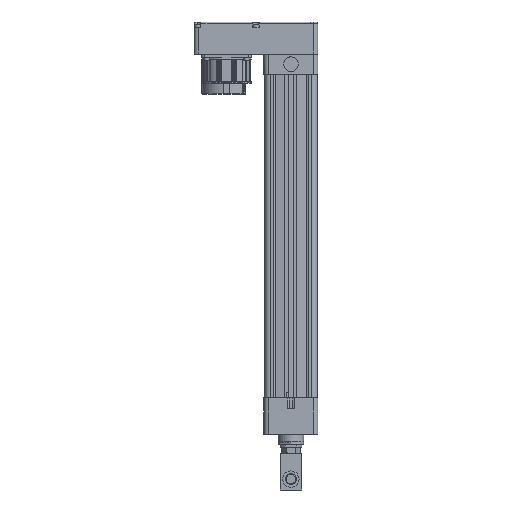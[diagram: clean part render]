
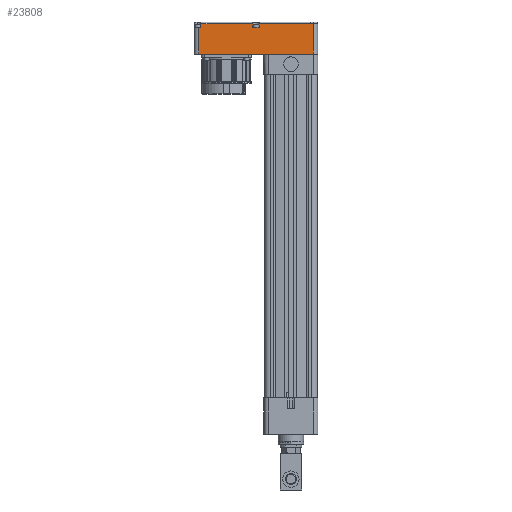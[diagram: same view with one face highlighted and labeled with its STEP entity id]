
A CAD part, left-side view. The second image highlights one B-rep face of the part: STEP entity #23808.
In plain terms, the highlighted planar face has unit normal (-1, 0, 0).
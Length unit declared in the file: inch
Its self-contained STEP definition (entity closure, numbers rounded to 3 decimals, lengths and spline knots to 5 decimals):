
#59 = VERTEX_POINT ( 'NONE', #12937 ) ;
#135 = CARTESIAN_POINT ( 'NONE',  ( -1.845, 2.6255, 3.21755 ) ) ;
#557 = EDGE_CURVE ( 'NONE', #32196, #4932, #4923, .T. ) ;
#990 = EDGE_CURVE ( 'NONE', #27219, #59, #21839, .T. ) ;
#1085 = AXIS2_PLACEMENT_3D ( 'NONE', #26182, #31474, #6454 ) ;
#2523 = CARTESIAN_POINT ( 'NONE',  ( -1.845, 1.62092, 1.393 ) ) ;
#2622 = CARTESIAN_POINT ( 'NONE',  ( -1.845, -1.5325, 1.393 ) ) ;
#2932 = DIRECTION ( 'NONE',  ( 0., 0., 1. ) ) ;
#3781 = DIRECTION ( 'NONE',  ( 0., -1., 0. ) ) ;
#4042 = EDGE_LOOP ( 'NONE', ( #8363, #14824, #22147, #10798, #28245, #12089, #27831, #20109, #27700, #15748, #29730, #32414 ) ) ;
#4299 = VECTOR ( 'NONE', #24217, 39.37008 ) ;
#4622 = LINE ( 'NONE', #32902, #7083 ) ;
#4631 = LINE ( 'NONE', #15653, #12987 ) ;
#4794 = DIRECTION ( 'NONE',  ( 0., 0., -1. ) ) ;
#4834 = LINE ( 'NONE', #29863, #4299 ) ;
#4923 = LINE ( 'NONE', #19031, #21661 ) ;
#4932 = VERTEX_POINT ( 'NONE', #22656 ) ;
#4963 = CARTESIAN_POINT ( 'NONE',  ( -1.845, -1.845, 1.393 ) ) ;
#5716 = CARTESIAN_POINT ( 'NONE',  ( -1.845, 6.1865, 3.21755 ) ) ;
#5744 = CARTESIAN_POINT ( 'NONE',  ( -1.845, 2.6255, 3.61125 ) ) ;
#6292 = EDGE_CURVE ( 'NONE', #12224, #21866, #32508, .T. ) ;
#6454 = DIRECTION ( 'NONE',  ( 0., 1., 0. ) ) ;
#6484 = LINE ( 'NONE', #17512, #8923 ) ;
#7083 = VECTOR ( 'NONE', #8045, 39.37008 ) ;
#7197 = LINE ( 'NONE', #5744, #13609 ) ;
#7302 = CARTESIAN_POINT ( 'NONE',  ( -1.845, -1.5325, 3.48523 ) ) ;
#7802 = VERTEX_POINT ( 'NONE', #31141 ) ;
#7823 = DIRECTION ( 'NONE',  ( 0., 0., -1. ) ) ;
#7961 = VECTOR ( 'NONE', #2932, 39.37008 ) ;
#8045 = DIRECTION ( 'NONE',  ( 0., -1., 0. ) ) ;
#8189 = CARTESIAN_POINT ( 'NONE',  ( -1.845, -1.49759, 3.4869 ) ) ;
#8257 = DIRECTION ( 'NONE',  ( 0., 1., 0. ) ) ;
#8363 = ORIENTED_EDGE ( 'NONE', *, *, #557, .T. ) ;
#8923 = VECTOR ( 'NONE', #3781, 39.37008 ) ;
#9183 = FACE_OUTER_BOUND ( 'NONE', #4042, .T. ) ;
#10798 = ORIENTED_EDGE ( 'NONE', *, *, #21848, .T. ) ;
#11088 = CARTESIAN_POINT ( 'NONE',  ( -1.845, -1.46292, 3.48519 ) ) ;
#11314 = VECTOR ( 'NONE', #8257, 39.37008 ) ;
#11318 = VERTEX_POINT ( 'NONE', #5716 ) ;
#12089 = ORIENTED_EDGE ( 'NONE', *, *, #6292, .T. ) ;
#12224 = VERTEX_POINT ( 'NONE', #20642 ) ;
#12375 = VERTEX_POINT ( 'NONE', #2523 ) ;
#12620 = EDGE_CURVE ( 'NONE', #12375, #32049, #6484, .T. ) ;
#12861 = EDGE_CURVE ( 'NONE', #59, #11318, #4631, .T. ) ;
#12937 = CARTESIAN_POINT ( 'NONE',  ( -1.845, 6.1865, 3.4705 ) ) ;
#12987 = VECTOR ( 'NONE', #4794, 39.37008 ) ;
#13257 = CARTESIAN_POINT ( 'NONE',  ( -1.845, 2.1885, 3.4705 ) ) ;
#13608 = CARTESIAN_POINT ( 'NONE',  ( -1.845, -1.32477, 3.4705 ) ) ;
#13609 = VECTOR ( 'NONE', #24561, 39.37008 ) ;
#13695 = EDGE_CURVE ( 'NONE', #32196, #11318, #4622, .T. ) ;
#14564 = VERTEX_POINT ( 'NONE', #135 ) ;
#14824 = ORIENTED_EDGE ( 'NONE', *, *, #26924, .T. ) ;
#15647 = DIRECTION ( 'NONE',  ( 0., -1., 0. ) ) ;
#15653 = CARTESIAN_POINT ( 'NONE',  ( -1.845, 6.1865, 3.61125 ) ) ;
#15748 = ORIENTED_EDGE ( 'NONE', *, *, #990, .T. ) ;
#15950 = CARTESIAN_POINT ( 'NONE',  ( -1.845, 2.6255, 3.4705 ) ) ;
#16678 = CARTESIAN_POINT ( 'NONE',  ( -1.845, -1.5325, 1.8305 ) ) ;
#17512 = CARTESIAN_POINT ( 'NONE',  ( -1.845, -1.845, 1.393 ) ) ;
#18338 = CARTESIAN_POINT ( 'NONE',  ( -1.845, -1.51501, 3.4866 ) ) ;
#18841 = CARTESIAN_POINT ( 'NONE',  ( -1.845, 6.655, 3.4705 ) ) ;
#19031 = CARTESIAN_POINT ( 'NONE',  ( -1.845, 6.3425, 1.8305 ) ) ;
#19214 = CARTESIAN_POINT ( 'NONE',  ( -1.845, -1.35957, 3.4705 ) ) ;
#19622 = CARTESIAN_POINT ( 'NONE',  ( -1.845, 6.3425, 3.21755 ) ) ;
#20109 = ORIENTED_EDGE ( 'NONE', *, *, #30831, .F. ) ;
#20642 = CARTESIAN_POINT ( 'NONE',  ( -1.845, -1.32477, 3.4705 ) ) ;
#21139 = DIRECTION ( 'NONE',  ( 0., -1., 0. ) ) ;
#21144 = VECTOR ( 'NONE', #21139, 39.37008 ) ;
#21329 = CARTESIAN_POINT ( 'NONE',  ( -1.845, 2.6255, 3.21755 ) ) ;
#21661 = VECTOR ( 'NONE', #7823, 39.37008 ) ;
#21839 = LINE ( 'NONE', #33494, #11314 ) ;
#21848 = EDGE_CURVE ( 'NONE', #32049, #34320, #22093, .T. ) ;
#21866 = VERTEX_POINT ( 'NONE', #13257 ) ;
#22093 = LINE ( 'NONE', #16678, #7961 ) ;
#22147 = ORIENTED_EDGE ( 'NONE', *, *, #12620, .T. ) ;
#22296 = CARTESIAN_POINT ( 'NONE',  ( -1.845, -1.44566, 3.48322 ) ) ;
#22299 = VECTOR ( 'NONE', #27217, 39.37008 ) ;
#22656 = CARTESIAN_POINT ( 'NONE',  ( -1.845, 6.3425, 1.393 ) ) ;
#23808 = ADVANCED_FACE ( 'NONE', ( #9183 ), #31666, .F. ) ;
#24217 = DIRECTION ( 'NONE',  ( 0., 0., -1. ) ) ;
#24561 = DIRECTION ( 'NONE',  ( 0., 0., -1. ) ) ;
#26182 = CARTESIAN_POINT ( 'NONE',  ( -1.845, -1.845, 1.8305 ) ) ;
#26710 = VECTOR ( 'NONE', #15647, 39.37008 ) ;
#26924 = EDGE_CURVE ( 'NONE', #4932, #12375, #32193, .T. ) ;
#27217 = DIRECTION ( 'NONE',  ( 0., 1., 0. ) ) ;
#27219 = VERTEX_POINT ( 'NONE', #15950 ) ;
#27314 = LINE ( 'NONE', #21329, #21144 ) ;
#27399 = CARTESIAN_POINT ( 'NONE',  ( -1.845, -1.5325, 3.48523 ) ) ;
#27700 = ORIENTED_EDGE ( 'NONE', *, *, #29419, .F. ) ;
#27831 = ORIENTED_EDGE ( 'NONE', *, *, #28170, .T. ) ;
#28170 = EDGE_CURVE ( 'NONE', #21866, #7802, #4834, .T. ) ;
#28245 = ORIENTED_EDGE ( 'NONE', *, *, #32539, .T. ) ;
#29419 = EDGE_CURVE ( 'NONE', #27219, #14564, #7197, .T. ) ;
#29730 = ORIENTED_EDGE ( 'NONE', *, *, #12861, .T. ) ;
#29863 = CARTESIAN_POINT ( 'NONE',  ( -1.845, 2.1885, 3.61125 ) ) ;
#30686 = CARTESIAN_POINT ( 'NONE',  ( -1.845, -1.39396, 3.47625 ) ) ;
#30831 = EDGE_CURVE ( 'NONE', #14564, #7802, #27314, .T. ) ;
#31141 = CARTESIAN_POINT ( 'NONE',  ( -1.845, 2.1885, 3.21755 ) ) ;
#31474 = DIRECTION ( 'NONE',  ( 1., 0., 0. ) ) ;
#31666 = PLANE ( 'NONE',  #1085 ) ;
#32049 = VERTEX_POINT ( 'NONE', #2622 ) ;
#32193 = LINE ( 'NONE', #4963, #26710 ) ;
#32196 = VERTEX_POINT ( 'NONE', #19622 ) ;
#32414 = ORIENTED_EDGE ( 'NONE', *, *, #13695, .F. ) ;
#32508 = LINE ( 'NONE', #18841, #22299 ) ;
#32539 = EDGE_CURVE ( 'NONE', #34320, #12224, #33595, .T. ) ;
#32902 = CARTESIAN_POINT ( 'NONE',  ( -1.845, 6.1865, 3.21755 ) ) ;
#33494 = CARTESIAN_POINT ( 'NONE',  ( -1.845, 6.655, 3.4705 ) ) ;
#33595 = B_SPLINE_CURVE_WITH_KNOTS ( 'NONE', 3,
 ( #7302, #18338, #8189, #11088, #22296, #30686, #19214, #13608 ),
 .UNSPECIFIED., .F., .F.,
 ( 4, 2, 2, 4 ),
 ( 0., 0.00132, 0.00264, 0.00529 ),
 .UNSPECIFIED. ) ;
#34320 = VERTEX_POINT ( 'NONE', #27399 ) ;
